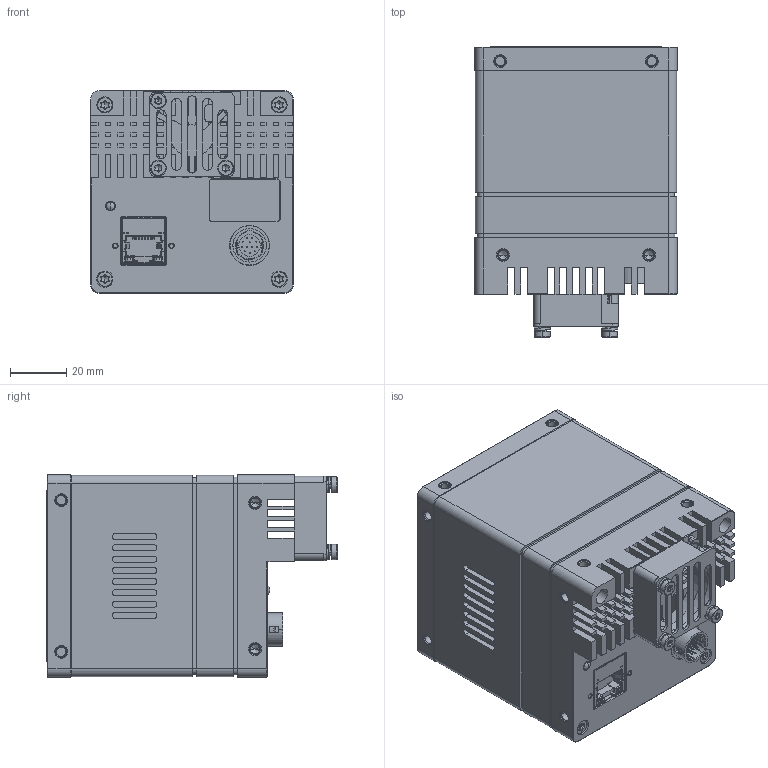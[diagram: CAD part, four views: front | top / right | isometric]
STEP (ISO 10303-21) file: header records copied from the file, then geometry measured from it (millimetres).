
FILE_DESCRIPTION((''),'2;1');
FILE_NAME('DH3-3424-6001_1','2024-01-22T19:44:13',('309376'),(''),'CREO PARAMETRIC BY PTC INC, 2020184','CREO PARAMETRIC BY PTC INC, 2020184','');
FILE_SCHEMA(('CONFIG_CONTROL_DESIGN','SHAPE_APPEARANCE_LAYERS_GROUPS'));
Products named in the file (1): DH3-3424-6001_1
Bounding box: 72 x 103.3 x 72 mm (x, y, z)
Volume: 388100.8 mm3; surface area: 74794 mm2
Topology: 1 solids, 100 shells, 2762 faces, 7612 edges, 4930 vertices
Faces by surface type: plane 1391, cylinder 959, cone 256, bspline 100, torus 50, sphere 6
Entity records: 125127 total; most frequent: CARTESIAN_POINT 26543, DIRECTION 15119, ORIENTED_EDGE 14686, PRESENTATION_STYLE_ASSIGNMENT 8151, STYLED_ITEM 7562, CURVE_STYLE 7497, EDGE_CURVE 7497, AXIS2_PLACEMENT_3D 5412
